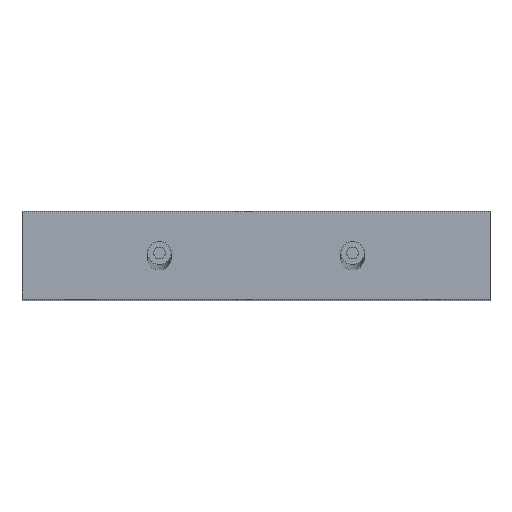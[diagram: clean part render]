
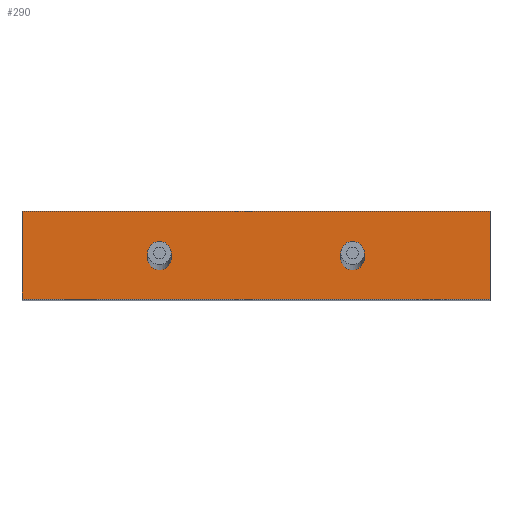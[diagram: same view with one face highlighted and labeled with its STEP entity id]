
A CAD part, top view. The second image highlights one B-rep face of the part: STEP entity #290.
In plain terms, the highlighted planar face has unit normal (0, 0, 1).
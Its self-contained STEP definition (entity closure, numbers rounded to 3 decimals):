
#13=LINE($,#440,#25);
#16=LINE($,#454,#28);
#19=LINE($,#460,#31);
#22=LINE($,#473,#34);
#25=VECTOR($,#365,15.);
#28=VECTOR($,#378,80.);
#31=VECTOR($,#383,15.);
#34=VECTOR($,#396,80.);
#45=PLANE($,#327);
#68=FACE_BOUND($,#119,.T.);
#69=FACE_BOUND($,#120,.T.);
#70=FACE_BOUND($,#121,.T.);
#119=EDGE_LOOP($,(#240));
#120=EDGE_LOOP($,(#241));
#121=EDGE_LOOP($,(#242,#243,#244,#245));
#125=CIRCLE($,#300,2.);
#129=CIRCLE($,#308,2.);
#141=VERTEX_POINT($,#420);
#145=VERTEX_POINT($,#432);
#146=VERTEX_POINT($,#436);
#148=VERTEX_POINT($,#439);
#154=VERTEX_POINT($,#453);
#156=VERTEX_POINT($,#459);
#165=EDGE_CURVE($,#141,#141,#125,.T.);
#169=EDGE_CURVE($,#145,#145,#129,.T.);
#171=EDGE_CURVE($,#148,#146,#13,.T.);
#178=EDGE_CURVE($,#154,#148,#16,.T.);
#181=EDGE_CURVE($,#156,#154,#19,.T.);
#188=EDGE_CURVE($,#146,#156,#22,.T.);
#240=ORIENTED_EDGE($,*,*,#165,.T.);
#241=ORIENTED_EDGE($,*,*,#169,.T.);
#242=ORIENTED_EDGE($,*,*,#188,.T.);
#243=ORIENTED_EDGE($,*,*,#181,.T.);
#244=ORIENTED_EDGE($,*,*,#178,.T.);
#245=ORIENTED_EDGE($,*,*,#171,.T.);
#290=ADVANCED_FACE($,(#68,#69,#70),#45,.T.);
#300=AXIS2_PLACEMENT_3D($,#421,#342,#343);
#308=AXIS2_PLACEMENT_3D($,#433,#358,#359);
#327=AXIS2_PLACEMENT_3D($,#480,#408,#409);
#342=DIRECTION('center_axis',(0.,0.,
-1.));
#343=DIRECTION('ref_axis',(-1.,0.,0.));
#358=DIRECTION('center_axis',(0.,0.,
-1.));
#359=DIRECTION('ref_axis',(-1.,0.,0.));
#365=DIRECTION($,(0.,1.,0.));
#378=DIRECTION($,(1.,0.,0.));
#383=DIRECTION($,(0.,-1.,0.));
#396=DIRECTION($,(-1.,0.,0.));
#408=DIRECTION('center_axis',(0.,0.,
1.));
#409=DIRECTION('ref_axis',(1.,0.,0.));
#420=CARTESIAN_POINT('',(53.302,0.284,96.656));
#421=CARTESIAN_POINT('Origin',(51.302,0.284,96.656));
#432=CARTESIAN_POINT('',(86.302,0.284,96.656));
#433=CARTESIAN_POINT('Origin',(84.302,0.284,96.656));
#436=CARTESIAN_POINT('',(107.802,8.284,96.656));
#439=CARTESIAN_POINT('',(107.802,-6.716,96.656));
#440=CARTESIAN_POINT($,(107.802,8.284,96.656));
#453=CARTESIAN_POINT('',(27.802,-6.716,96.656));
#454=CARTESIAN_POINT($,(107.802,-6.716,96.656));
#459=CARTESIAN_POINT('',(27.802,8.284,96.656));
#460=CARTESIAN_POINT($,(27.802,-6.716,96.656));
#473=CARTESIAN_POINT($,(27.802,8.284,96.656));
#480=CARTESIAN_POINT('Origin',(67.802,0.784,96.656));
